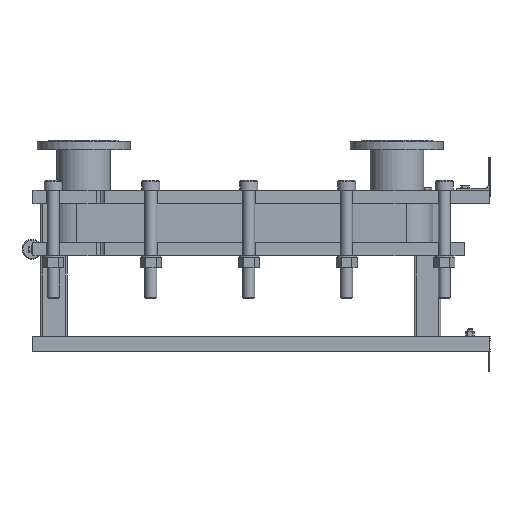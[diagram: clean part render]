
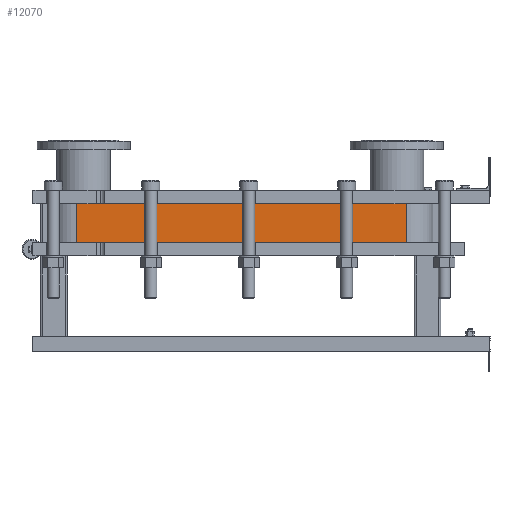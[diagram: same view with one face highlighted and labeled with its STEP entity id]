
A CAD part, left-side view. The second image highlights one B-rep face of the part: STEP entity #12070.
In plain terms, the highlighted planar face has unit normal (-1, 0, 0).
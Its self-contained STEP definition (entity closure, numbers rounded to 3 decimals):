
#1064=LINE('',#21140,#2164);
#1065=LINE('',#21144,#2165);
#1066=LINE('',#21146,#2166);
#1067=LINE('',#21147,#2167);
#2164=VECTOR('',#15790,10.);
#2165=VECTOR('',#15795,10.);
#2166=VECTOR('',#15796,10.);
#2167=VECTOR('',#15797,10.);
#3304=FACE_OUTER_BOUND('',#4091,.T.);
#4091=EDGE_LOOP('',(#9793,#9794,#9795,#9796));
#5677=VERTEX_POINT('',#21137);
#5678=VERTEX_POINT('',#21139);
#5679=VERTEX_POINT('',#21143);
#5680=VERTEX_POINT('',#21145);
#7118=EDGE_CURVE('',#5678,#5677,#1064,.T.);
#7120=EDGE_CURVE('',#5677,#5679,#1065,.T.);
#7121=EDGE_CURVE('',#5680,#5679,#1066,.T.);
#7122=EDGE_CURVE('',#5680,#5678,#1067,.T.);
#9793=ORIENTED_EDGE('',*,*,#7120,.T.);
#9794=ORIENTED_EDGE('',*,*,#7121,.F.);
#9795=ORIENTED_EDGE('',*,*,#7122,.T.);
#9796=ORIENTED_EDGE('',*,*,#7118,.T.);
#11441=PLANE('',#13191);
#12070=ADVANCED_FACE('',(#3304),#11441,.T.);
#13191=AXIS2_PLACEMENT_3D('',#21142,#15793,#15794);
#15790=DIRECTION('',(0.,0.,-1.));
#15793=DIRECTION('center_axis',(-1.,0.,0.));
#15794=DIRECTION('ref_axis',(0.,1.,0.));
#15795=DIRECTION('',(0.,-1.,0.));
#15796=DIRECTION('',(0.,0.,-1.));
#15797=DIRECTION('',(0.,1.,0.));
#21137=CARTESIAN_POINT('',(-248.152,1243.818,-117.3));
#21139=CARTESIAN_POINT('',(-248.152,1243.818,0.));
#21140=CARTESIAN_POINT('',(-248.152,1243.818,0.));
#21142=CARTESIAN_POINT('Origin',(-248.152,251.818,0.));
#21143=CARTESIAN_POINT('',(-248.152,251.818,-117.3));
#21144=CARTESIAN_POINT('',(-248.152,499.818,-117.3));
#21145=CARTESIAN_POINT('',(-248.152,251.818,0.));
#21146=CARTESIAN_POINT('',(-248.152,251.818,0.));
#21147=CARTESIAN_POINT('',(-248.152,251.818,0.));
